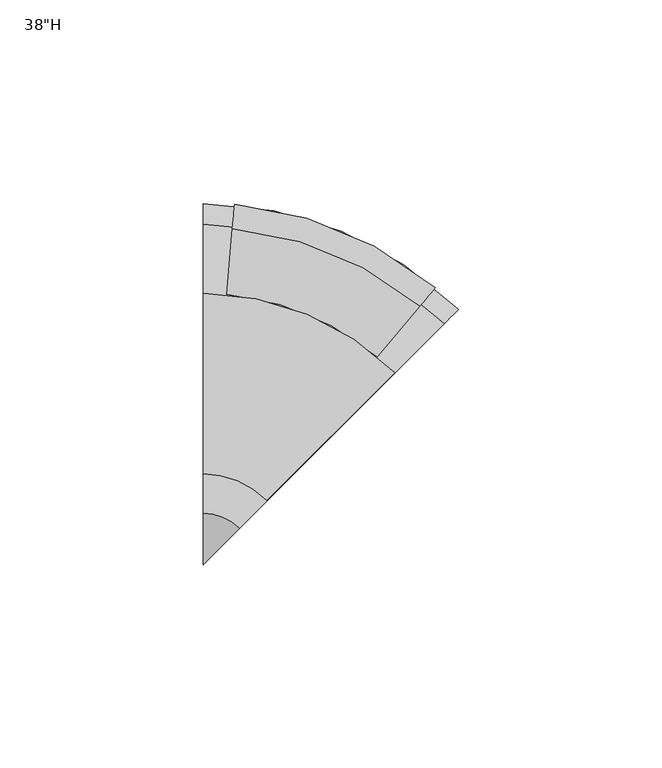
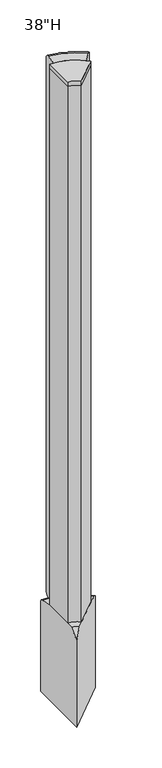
"""IFC4 building model written with IfcOpenShell, lengths in millimetres: furniture geometry."""

from ifc_helpers import new_model, si_unit, point, frame, frame_2d, origin, place, context, project, spatial, polyline, circle_curve, ellipse_curve, trimmed, segment, composite_curve, outline, extrude, source, transform, mapped, element, save
from ifc_brep_helpers import plane_surface, cylinder_surface, revolved_surface, advanced_brep


def furniture_68980961(model_context):
    return source(origin(), model_context, "Body", "SolidModel", [
        extrude(outline(composite_curve([segment(polyline([(25.1685591, 79.4171244), (-6.2546828, 47.9938825)]), True, "CONTINUOUS"), segment(trimmed(circle_curve(frame_2d((-21.9701354, 32.2784299)), 22.2250062), [point((-6.2546828, 47.9938825))], [point((-21.9701354, 54.5034362))], True, "CARTESIAN"), True, "CONTINUOUS"), segment(polyline([(-21.9701354, 54.5034362), (-21.9701354, 98.9381293)]), True, "CONTINUOUS"), segment(trimmed(circle_curve(frame_2d((-21.9701354, 32.2631254)), 66.6750039), [point((-21.9701354, 98.9381293))], [point((25.1685591, 79.4171244))], False, "CARTESIAN"), True, "CONTINUOUS")], self_intersect=False)), frame((0.0, 0.0, 958.85), z_axis=(0.0, 0.0, 1.0), x_axis=(1.0, 0.0, 0.0)), (0.0, 0.0, 1.0), 6.35),
        advanced_brep(
        [(-21.9701354, 32.2784362, 9.525), (-21.9701354, 32.2784362, 139.7), (-21.9701354, 44.9784362, 152.4), (-21.9701354, 98.9534369, 152.4), (-21.9701354, 116.160623, 149.942786), (-21.9701354, 121.178433, 144.1572024), (-21.9701354, 121.178433, 9.525), (40.8916583, 95.1402237, 9.525), (40.8916583, 95.1402237, 144.1572024), (37.3435307, 91.5920964, 149.942786), (25.1762099, 79.4247768, 152.4009559), (-12.9898789, 41.2586918, 152.4)],
        [
            (0, 1),
            (1, 2),
            (2, 3),
            (3, 4),
            (4, 5, circle_curve(frame((-21.9701354, 115.3341111, 144.1572024), z_axis=(-1.0, 0.0, 0.0), x_axis=(0.0, 1.0, 0.0)), 5.844322)),
            (5, 6),
            (6, 0),
            (7, 8),
            (8, 9, circle_curve(frame((36.7590985, 91.0076642, 144.1572024), z_axis=(0.7071067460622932, -0.7071068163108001, 0.0), x_axis=(0.7071068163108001, 0.7071067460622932, 0.0)), 5.844322)),
            (9, 10),
            (10, 11),
            (11, 1),
            (0, 7),
            (6, 7, circle_curve(frame((-21.9701354, 32.2784362, 9.525), z_axis=(0.0, 0.0, -1.0), x_axis=(0.0, 1.0, 0.0)), 88.8999969)),
            (3, 10, circle_curve(frame((-21.9701354, 32.2784362, 152.4), z_axis=(0.0, 0.0, -1.0), x_axis=(0.0, 1.0, 0.0)), 66.6816886)),
            (9, 4, circle_curve(frame((-21.9701354, 32.2784362, 149.942786), z_axis=(0.0, 0.0, 1.0), x_axis=(0.0, 1.0, 0.0)), 83.8821869)),
            (8, 5, circle_curve(frame((-21.9701354, 32.2784362, 144.1572024), z_axis=(0.0, 0.0, 1.0), x_axis=(0.0, 1.0, 0.0)), 88.8999969)),
            (2, 11, circle_curve(frame((-21.9701354, 32.2784362, 152.4), z_axis=(0.0, 0.0, -1.0), x_axis=(0.0, 1.0, 0.0)), 12.7)),
        ],
        [
            plane_surface(frame((-21.9701354, 121.178433, 152.4885388), z_axis=(-1.0, 0.0, 0.0), x_axis=(0.0, 0.0, 1.0))),
            plane_surface(frame((40.8916583, 95.1402237, 152.4885388), z_axis=(0.7071067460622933, -0.7071068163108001, 0.0), x_axis=(0.0, 0.0, 1.0))),
            plane_surface(frame((-21.9701354, 32.2784362, 9.525), z_axis=(0.0, 0.0, -1.0), x_axis=(0.0, 1.0, 0.0))),
            revolved_surface(polyline([(-21.9701354, 98.9534338, 152.4009559), (-21.9701354, 116.160623, 149.942786)]), (-21.9701354, 32.2784362, 152.4885388), (0.0, 0.0, -1.0)),
            revolved_surface(trimmed(ellipse_curve(frame((-21.9701354, 115.3341111, 144.1572024), z_axis=(-1.0, 0.0, 0.0), x_axis=(0.0, 1.0, 0.0)), 5.844322, 5.844322), [point((-21.9701354, 116.160623, 149.942786))], [point((-21.9701354, 121.178433, 144.1572024))], True, "CARTESIAN"), (-21.9701354, 32.2784362, 152.4885388), (0.0, 0.0, -1.0)),
            cylinder_surface(frame((-21.9701354, 32.2784362, 152.4885388), z_axis=(0.0, 0.0, -1.0), x_axis=(0.0, 1.0, 0.0)), 88.8999969),
            plane_surface(frame((-21.9701354, 32.2784362, 152.4), z_axis=(0.0, 0.0, 1.0), x_axis=(0.0, 1.0, 0.0))),
            revolved_surface(polyline([(-21.9701354, 32.2784362, 139.7), (-21.9701354, 44.9784362, 152.4)]), (-21.9701354, 32.2784362, 9.525), (0.0, 0.0, -1.0)),
        ],
        [
            (0, [[1, 2, 3, 4, 5, 6, 7]]),
            (1, [[8, 9, 10, 11, 12, -1, 13]]),
            (2, [[-13, -7, 14]]),
            (3, [[-4, 15, -10, 16]]),
            (4, [[-5, -16, -9, 17]]),
            (5, [[-6, -17, -8, -14]]),
            (6, [[-3, 18, -11, -15]]),
            (7, [[-2, -12, -18]]),
        ],
    ),
        advanced_brep(
        [(-16.1590262, 98.6997184, 152.4), (-16.1590262, 98.6997184, 965.2), (-14.7422225, 114.8938587, 965.2), (-14.2219899, 120.8401448, 959.231), (-14.2219899, 120.8401448, 158.369), (-14.7422225, 114.8938587, 152.4), (20.8877289, 83.35445, 152.4), (31.3368838, 95.8072679, 152.4), (35.1736831, 100.3797872, 158.369), (35.1736831, 100.3797872, 959.231), (31.3368838, 95.8072679, 965.2), (20.8877289, 83.35445, 965.2)],
        [
            (0, 1),
            (1, 2),
            (2, 3, circle_curve(frame((-14.7422225, 114.8938587, 959.231), z_axis=(-0.9961946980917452, 0.08715574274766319, 0.0), x_axis=(-0.08715574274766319, -0.9961946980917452, 0.0)), 5.969)),
            (3, 4),
            (4, 5, circle_curve(frame((-14.7422225, 114.8938587, 158.369), z_axis=(-0.9961946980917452, 0.08715574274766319, 0.0), x_axis=(-0.08715574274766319, -0.9961946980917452, 0.0)), 5.969)),
            (5, 0),
            (6, 7),
            (7, 8, circle_curve(frame((31.3368838, 95.8072679, 158.369), z_axis=(0.7660444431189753, -0.6427876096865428, 0.0), x_axis=(-0.6427876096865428, -0.7660444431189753, 0.0)), 5.969)),
            (8, 9),
            (9, 10, circle_curve(frame((31.3368838, 95.8072679, 959.231), z_axis=(0.7660444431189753, -0.6427876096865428, 0.0), x_axis=(-0.6427876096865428, -0.7660444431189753, 0.0)), 5.969)),
            (10, 11),
            (11, 6),
            (8, 4, circle_curve(frame((-21.9701354, 32.2784362, 158.369), z_axis=(0.0, 0.0, 1.0), x_axis=(0.08715574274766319, 0.9961946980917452, 0.0)), 88.9)),
            (3, 9, circle_curve(frame((-21.9701354, 32.2784362, 959.231), z_axis=(0.0, 0.0, -1.0), x_axis=(0.08715574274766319, 0.9961946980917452, 0.0)), 88.9)),
            (11, 1, circle_curve(frame((-21.9701354, 32.2784362, 965.2), z_axis=(0.0, 0.0, 1.0), x_axis=(0.08715574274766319, 0.9961946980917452, 0.0)), 66.6750008)),
            (0, 6, circle_curve(frame((-21.9701354, 32.2784362, 152.4), z_axis=(0.0, 0.0, -1.0), x_axis=(0.08715574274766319, 0.9961946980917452, 0.0)), 66.6750008)),
            (7, 5, circle_curve(frame((-21.9701354, 32.2784362, 152.4), z_axis=(0.0, 0.0, 1.0), x_axis=(0.08715574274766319, 0.9961946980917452, 0.0)), 82.931)),
            (10, 2, circle_curve(frame((-21.9701354, 32.2784362, 965.2), z_axis=(0.0, 0.0, 1.0), x_axis=(0.08715574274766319, 0.9961946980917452, 0.0)), 82.931)),
        ],
        [
            plane_surface(frame((-21.9701354, 32.2784362, 152.4), z_axis=(-0.9961946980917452, 0.08715574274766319, 0.0), x_axis=(0.08715574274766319, 0.9961946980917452, 0.0))),
            plane_surface(frame((-21.9701354, 32.2784362, 152.4), z_axis=(0.7660444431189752, -0.6427876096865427, 0.0), x_axis=(0.6427876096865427, 0.7660444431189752, 0.0))),
            cylinder_surface(frame((-21.9701354, 32.2784362, 152.4), z_axis=(0.0, 0.0, -1.0), x_axis=(0.08715574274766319, 0.9961946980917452, 0.0)), 88.9),
            revolved_surface(polyline([(-16.159026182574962, 98.69971849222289, 152.4), (-16.159026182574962, 98.69971849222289, 965.2)]), (-21.9701354, 32.2784362, 152.4), (0.0, 0.0, -1.0)),
            revolved_surface(trimmed(ellipse_curve(frame((-14.7422225, 114.8938587, 158.369), z_axis=(-0.9961946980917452, 0.08715574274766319, 0.0), x_axis=(-0.08715574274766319, -0.9961946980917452, 0.0)), 5.969, 5.969), [point((-14.2219899, 120.8401448, 158.369))], [point((-14.7422225, 114.8938587, 152.4))], True, "CARTESIAN"), (-21.9701354, 32.2784362, 152.4), (0.0, 0.0, -1.0)),
            plane_surface(frame((-21.9701354, 32.2784362, 152.4), z_axis=(0.0, 0.0, -1.0000000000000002), x_axis=(0.08715574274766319, 0.9961946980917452, 0.0))),
            plane_surface(frame((-21.9701354, 32.2784362, 965.2), z_axis=(0.0, 0.0, 1.0000000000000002), x_axis=(0.08715574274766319, 0.9961946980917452, 0.0))),
            revolved_surface(trimmed(ellipse_curve(frame((-14.7422225, 114.8938587, 959.231), z_axis=(-0.9961946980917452, 0.08715574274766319, 0.0), x_axis=(-0.08715574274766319, -0.9961946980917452, 0.0)), 5.969, 5.969), [point((-14.7422225, 114.8938587, 965.2))], [point((-14.2219899, 120.8401448, 959.231))], True, "CARTESIAN"), (-21.9701354, 32.2784362, 152.4), (0.0, 0.0, -1.0)),
        ],
        [
            (0, [[1, 2, 3, 4, 5, 6]]),
            (1, [[7, 8, 9, 10, 11, 12]]),
            (2, [[13, -4, 14, -9]]),
            (3, [[15, -1, 16, -12]]),
            (4, [[17, -5, -13, -8]]),
            (5, [[-16, -6, -17, -7]]),
            (6, [[18, -2, -15, -11]]),
            (7, [[-14, -3, -18, -10]]),
        ],
    ),
        extrude(outline(composite_curve([segment(trimmed(circle_curve(frame_2d((-21.9701354, 32.2784299)), 22.2250062), [point((-6.2546828, 47.9938825))], [point((-21.9701354, 54.5034362))], True, "CARTESIAN"), True, "CONTINUOUS"), segment(polyline([(-21.9701354, 54.5034362), (-21.9701354, 98.9381293)]), True, "CONTINUOUS"), segment(trimmed(circle_curve(frame_2d((-21.9701354, 32.2631254)), 66.6750039), [point((-21.9701354, 98.9381293))], [point((25.1685591, 79.4171244))], False, "CARTESIAN"), True, "CONTINUOUS"), segment(polyline([(25.1685591, 79.4171244), (-6.2546828, 47.9938825)]), True, "CONTINUOUS")], self_intersect=False)), frame((0.0, 0.0, 152.4), z_axis=(0.0, 0.0, 1.0), x_axis=(1.0, 0.0, 0.0)), (0.0, 0.0, 1.0), 806.45),
    ])


if __name__ == "__main__":
    model = new_model("IFC4")
    model_context = context("Model", 3, world=origin())
    ifc_project = project(units=[si_unit("LENGTHUNIT", "METRE", prefix="MILLI")], contexts=[model_context])
    site = spatial("IfcSite", under=ifc_project)
    building = spatial("IfcBuilding", under=site)
    placement = place(None, origin())
    furniture_shape = furniture_68980961(model_context)
    element("IfcFurniture", 1, ObjectType="HermanMiller_Ethospace_E1221_135DegreeConnector : 38\"H", at=placement, inside=building, context=model_context, shape_type="MappedRepresentation", body=[
        mapped(furniture_shape, transform((0.0, 0.0, 0.0), x_axis=(1.0, 0.0, 0.0), y_axis=(0.0, 1.0, 0.0), z_axis=(0.0, 0.0, 1.0))),
    ])
    save(model, "model.ifc")
